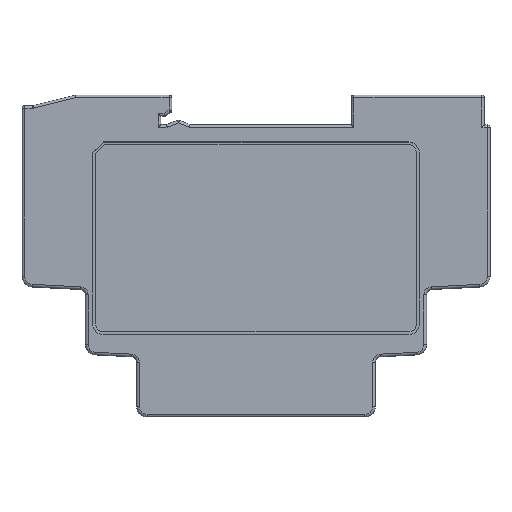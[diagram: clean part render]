
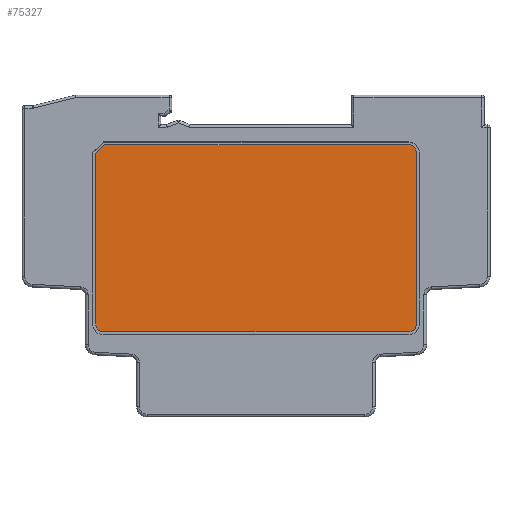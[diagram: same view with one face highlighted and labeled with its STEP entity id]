
A CAD part, front view. The second image highlights one B-rep face of the part: STEP entity #75327.
In plain terms, the highlighted planar face has unit normal (0, -1, 0).
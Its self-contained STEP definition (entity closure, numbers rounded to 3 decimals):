
#75090=CARTESIAN_POINT('',(30.,0.,-5.292));
#75091=CARTESIAN_POINT('',(30.,0.,-5.031));
#75092=CARTESIAN_POINT('',(29.861,0.,-4.509));
#75093=CARTESIAN_POINT('',(29.291,0.,-3.939));
#75094=CARTESIAN_POINT('',(28.769,0.,-3.8));
#75095=CARTESIAN_POINT('',(28.508,0.,-3.8));
#75097=DIRECTION('',(0.,0.,1.));
#75098=VECTOR('',#75097,32.015);
#75099=CARTESIAN_POINT('',(30.,0.,-37.308));
#75100=LINE('',#75099,#75098);
#75101=CARTESIAN_POINT('',(28.508,0.,-38.8));
#75102=CARTESIAN_POINT('',(28.769,0.,-38.8));
#75103=CARTESIAN_POINT('',(29.291,0.,-38.661));
#75104=CARTESIAN_POINT('',(29.861,0.,-38.091));
#75105=CARTESIAN_POINT('',(30.,0.,-37.569));
#75106=CARTESIAN_POINT('',(30.,0.,-37.308));
#75108=DIRECTION('',(1.,0.,0.));
#75109=VECTOR('',#75108,57.015);
#75110=CARTESIAN_POINT('',(-28.508,0.,-38.8));
#75111=LINE('',#75110,#75109);
#75112=CARTESIAN_POINT('',(-30.,0.,-37.308));
#75113=CARTESIAN_POINT('',(-30.,0.,-37.569));
#75114=CARTESIAN_POINT('',(-29.861,0.,-38.091));
#75115=CARTESIAN_POINT('',(-29.291,0.,-38.661));
#75116=CARTESIAN_POINT('',(-28.769,0.,-38.8));
#75117=CARTESIAN_POINT('',(-28.508,0.,-38.8));
#75119=DIRECTION('',(0.,0.,-1.));
#75120=VECTOR('',#75119,31.793);
#75121=CARTESIAN_POINT('',(-30.,0.,-5.515));
#75122=LINE('',#75121,#75120);
#75123=DIRECTION('',(-0.707,0.,-0.707));
#75124=VECTOR('',#75123,2.425);
#75125=CARTESIAN_POINT('',(-28.285,0.,-3.8));
#75126=LINE('',#75125,#75124);
#75127=DIRECTION('',(-1.,0.,0.));
#75128=VECTOR('',#75127,56.793);
#75129=CARTESIAN_POINT('',(28.508,0.,-3.8));
#75130=LINE('',#75129,#75128);
#75143=VERTEX_POINT('',#75090);
#75144=VERTEX_POINT('',#75095);
#75145=CARTESIAN_POINT('',(-28.285,0.,-3.8));
#75146=VERTEX_POINT('',#75145);
#75147=CARTESIAN_POINT('',(-30.,0.,-5.515));
#75148=VERTEX_POINT('',#75147);
#75149=CARTESIAN_POINT('',(-30.,0.,-37.308));
#75150=VERTEX_POINT('',#75149);
#75151=VERTEX_POINT('',#75117);
#75152=CARTESIAN_POINT('',(28.508,0.,-38.8));
#75153=VERTEX_POINT('',#75152);
#75154=VERTEX_POINT('',#75106);
#75312=CARTESIAN_POINT('',(0.,0.,0.));
#75313=DIRECTION('',(0.,-1.,0.));
#75314=DIRECTION('',(1.,0.,0.));
#75315=AXIS2_PLACEMENT_3D('',#75312,#75313,#75314);
#75316=PLANE('',#75315);
#75317=ORIENTED_EDGE('',*,*,#75194,.F.);
#75318=ORIENTED_EDGE('',*,*,#75209,.F.);
#75319=ORIENTED_EDGE('',*,*,#75230,.F.);
#75320=ORIENTED_EDGE('',*,*,#75244,.F.);
#75321=ORIENTED_EDGE('',*,*,#75265,.F.);
#75322=ORIENTED_EDGE('',*,*,#75279,.F.);
#75323=ORIENTED_EDGE('',*,*,#75293,.F.);
#75324=ORIENTED_EDGE('',*,*,#75306,.F.);
#75325=EDGE_LOOP('',(#75317,#75318,#75319,#75320,#75321,#75322,#75323,#75324));
#75326=FACE_OUTER_BOUND('',#75325,.F.);
#75327=ADVANCED_FACE('',(#75326),#75316,.T.);
#75096=B_SPLINE_CURVE_WITH_KNOTS('',3,(#75090,#75091,#75092,#75093,#75094,
#75095),.UNSPECIFIED.,.F.,.F.,(4,1,1,4),(0.,0.333,
0.667,1.),.UNSPECIFIED.);
#75107=B_SPLINE_CURVE_WITH_KNOTS('',3,(#75101,#75102,#75103,#75104,#75105,
#75106),.UNSPECIFIED.,.F.,.F.,(4,1,1,4),(0.,0.333,
0.667,1.),.UNSPECIFIED.);
#75118=B_SPLINE_CURVE_WITH_KNOTS('',3,(#75112,#75113,#75114,#75115,#75116,
#75117),.UNSPECIFIED.,.F.,.F.,(4,1,1,4),(0.,0.333,
0.667,1.),.UNSPECIFIED.);
#75194=EDGE_CURVE('',#75143,#75144,#75096,.T.);
#75209=EDGE_CURVE('',#75154,#75143,#75100,.T.);
#75230=EDGE_CURVE('',#75153,#75154,#75107,.T.);
#75244=EDGE_CURVE('',#75151,#75153,#75111,.T.);
#75265=EDGE_CURVE('',#75150,#75151,#75118,.T.);
#75279=EDGE_CURVE('',#75148,#75150,#75122,.T.);
#75293=EDGE_CURVE('',#75146,#75148,#75126,.T.);
#75306=EDGE_CURVE('',#75144,#75146,#75130,.T.);
